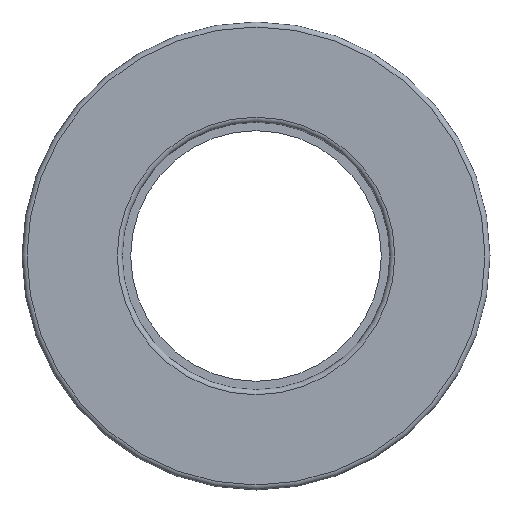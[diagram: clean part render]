
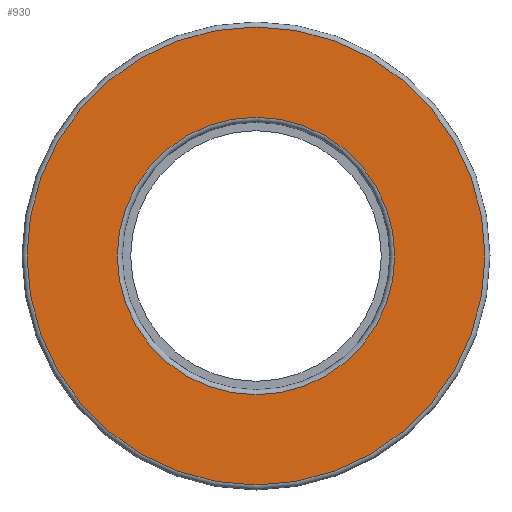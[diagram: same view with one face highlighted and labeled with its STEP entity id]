
A CAD part, front view. The second image highlights one B-rep face of the part: STEP entity #930.
In plain terms, the highlighted planar face has unit normal (0, -1, 0).
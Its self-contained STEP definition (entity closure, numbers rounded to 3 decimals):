
#267=PLANE('',#989);
#313=FACE_BOUND('',#400,.T.);
#346=FACE_OUTER_BOUND('',#399,.T.);
#399=EDGE_LOOP('',(#697));
#400=EDGE_LOOP('',(#698));
#481=CIRCLE('',#988,8.3);
#482=CIRCLE('',#990,13.7);
#499=VERTEX_POINT('',#1347);
#500=VERTEX_POINT('',#1350);
#581=EDGE_CURVE('',#499,#499,#481,.T.);
#582=EDGE_CURVE('',#500,#500,#482,.T.);
#697=ORIENTED_EDGE('',*,*,#582,.F.);
#698=ORIENTED_EDGE('',*,*,#581,.T.);
#930=ADVANCED_FACE('',(#346,#313),#267,.T.);
#988=AXIS2_PLACEMENT_3D('',#1348,#1080,#1081);
#989=AXIS2_PLACEMENT_3D('',#1349,#1082,#1083);
#990=AXIS2_PLACEMENT_3D('',#1351,#1084,#1085);
#1080=DIRECTION('center_axis',(0.,1.,0.));
#1081=DIRECTION('ref_axis',(1.,0.,0.));
#1082=DIRECTION('center_axis',(0.,-1.,0.));
#1083=DIRECTION('ref_axis',(0.,0.,-1.));
#1084=DIRECTION('center_axis',(0.,1.,0.));
#1085=DIRECTION('ref_axis',(1.,0.,0.));
#1347=CARTESIAN_POINT('',(-8.3,-4.5,0.));
#1348=CARTESIAN_POINT('Origin',(0.,-4.5,0.));
#1349=CARTESIAN_POINT('Origin',(-13.7,-4.5,0.));
#1350=CARTESIAN_POINT('',(-13.7,-4.5,0.));
#1351=CARTESIAN_POINT('Origin',(0.,-4.5,0.));
